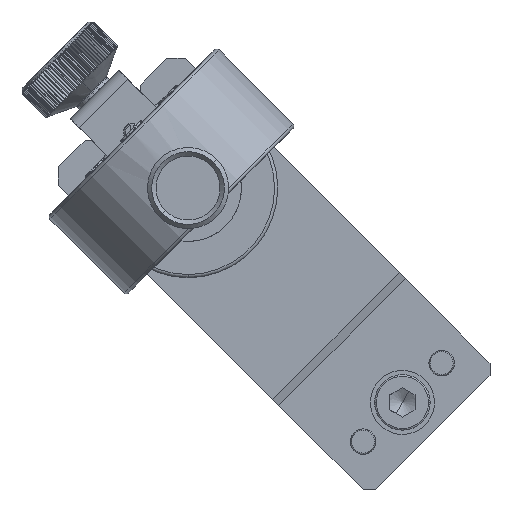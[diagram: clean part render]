
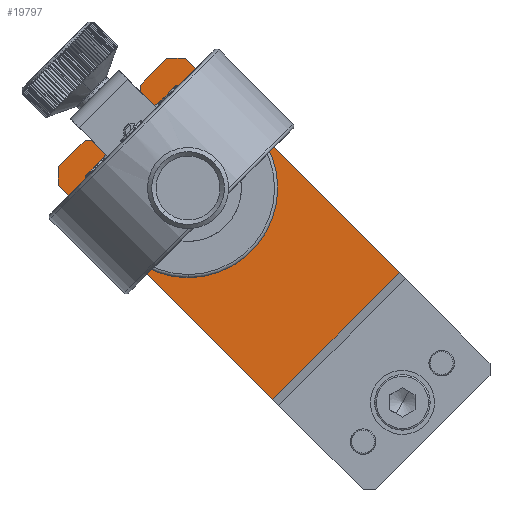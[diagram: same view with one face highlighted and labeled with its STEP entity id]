
A CAD part, front view. The second image highlights one B-rep face of the part: STEP entity #19797.
In plain terms, the highlighted planar face has unit normal (0, -1, 0).
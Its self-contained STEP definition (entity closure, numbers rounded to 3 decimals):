
#19007=CARTESIAN_POINT('Vertex',(611.502,406.106,339.628)) ;
#19010=CARTESIAN_POINT('Line Origine',(586.399,406.106,364.731)) ;
#19014=CARTESIAN_POINT('Vertex',(561.297,406.106,389.833)) ;
#19183=CARTESIAN_POINT('Line Origine',(561.297,406.106,391.954)) ;
#19187=CARTESIAN_POINT('Vertex',(561.297,406.106,394.076)) ;
#19211=CARTESIAN_POINT('Vertex',(569.005,406.106,400.369)) ;
#19214=CARTESIAN_POINT('Line Origine',(571.479,406.106,397.894)) ;
#19218=CARTESIAN_POINT('Vertex',(573.954,406.106,395.419)) ;
#19378=CARTESIAN_POINT('Vertex',(600.917,406.106,394.16)) ;
#19381=CARTESIAN_POINT('Axis2P3D Location',(591.703,406.106,389.126)) ;
#19385=CARTESIAN_POINT('Vertex',(582.488,406.106,384.092)) ;
#19436=CARTESIAN_POINT('Axis2P3D Location',(591.703,406.106,389.126)) ;
#19465=CARTESIAN_POINT('Line Origine',(583.606,406.106,416.385)) ;
#19469=CARTESIAN_POINT('Vertex',(567.59,406.106,400.369)) ;
#19489=CARTESIAN_POINT('Line Origine',(568.297,406.106,400.369)) ;
#19506=CARTESIAN_POINT('Line Origine',(579.682,406.106,401.147)) ;
#19510=CARTESIAN_POINT('Vertex',(585.409,406.106,406.874)) ;
#19538=CARTESIAN_POINT('Vertex',(580.46,406.106,411.824)) ;
#19541=CARTESIAN_POINT('Line Origine',(582.935,406.106,409.349)) ;
#19558=CARTESIAN_POINT('Line Origine',(580.46,406.106,412.531)) ;
#19562=CARTESIAN_POINT('Vertex',(580.46,406.106,413.238)) ;
#19577=CARTESIAN_POINT('Line Origine',(583.606,406.106,416.385)) ;
#19581=CARTESIAN_POINT('Vertex',(586.753,406.106,419.531)) ;
#19601=CARTESIAN_POINT('Line Origine',(588.874,406.106,419.531)) ;
#19605=CARTESIAN_POINT('Vertex',(590.996,406.106,419.531)) ;
#19754=CARTESIAN_POINT('Vertex',(641.2,406.106,369.327)) ;
#19757=CARTESIAN_POINT('Line Origine',(626.351,406.106,354.478)) ;
#19769=CARTESIAN_POINT('Axis2P3D Location',(588.874,406.106,391.954)) ;
#19774=CARTESIAN_POINT('Line Origine',(616.098,406.106,394.429)) ;
#19011=DIRECTION('Vector Direction',(0.707,0.,-0.707)) ;
#19184=DIRECTION('Vector Direction',(0.,0.,1.)) ;
#19215=DIRECTION('Vector Direction',(0.707,0.,-0.707)) ;
#19382=DIRECTION('Axis2P3D Direction',(0.,-1.,0.)) ;
#19437=DIRECTION('Axis2P3D Direction',(0.,-1.,0.)) ;
#19466=DIRECTION('Vector Direction',(0.707,0.,0.707)) ;
#19490=DIRECTION('Vector Direction',(1.,0.,0.)) ;
#19507=DIRECTION('Vector Direction',(-0.707,0.,-0.707)) ;
#19542=DIRECTION('Vector Direction',(0.707,0.,-0.707)) ;
#19559=DIRECTION('Vector Direction',(0.,0.,-1.)) ;
#19578=DIRECTION('Vector Direction',(0.707,0.,0.707)) ;
#19602=DIRECTION('Vector Direction',(1.,0.,0.)) ;
#19758=DIRECTION('Vector Direction',(-0.707,0.,-0.707)) ;
#19770=DIRECTION('Axis2P3D Direction',(0.,-1.,0.)) ;
#19771=DIRECTION('Axis2P3D XDirection',(-0.707,0.,0.707)) ;
#19775=DIRECTION('Vector Direction',(0.707,0.,-0.707)) ;
#19383=AXIS2_PLACEMENT_3D('Circle Axis2P3D',#19381,#19382,$) ;
#19438=AXIS2_PLACEMENT_3D('Circle Axis2P3D',#19436,#19437,$) ;
#19772=AXIS2_PLACEMENT_3D('Plane Axis2P3D',#19769,#19770,#19771) ;
#19780=ORIENTED_EDGE('',*,*,#19471,.T.) ;
#19781=ORIENTED_EDGE('',*,*,#19189,.F.) ;
#19782=ORIENTED_EDGE('',*,*,#19016,.T.) ;
#19783=ORIENTED_EDGE('',*,*,#19761,.T.) ;
#19784=ORIENTED_EDGE('',*,*,#19778,.F.) ;
#19785=ORIENTED_EDGE('',*,*,#19607,.F.) ;
#19786=ORIENTED_EDGE('',*,*,#19583,.T.) ;
#19787=ORIENTED_EDGE('',*,*,#19564,.F.) ;
#19788=ORIENTED_EDGE('',*,*,#19545,.T.) ;
#19789=ORIENTED_EDGE('',*,*,#19512,.T.) ;
#19790=ORIENTED_EDGE('',*,*,#19220,.F.) ;
#19791=ORIENTED_EDGE('',*,*,#19493,.F.) ;
#19794=ORIENTED_EDGE('',*,*,#19440,.F.) ;
#19795=ORIENTED_EDGE('',*,*,#19387,.F.) ;
#19796=FACE_BOUND('',#19793,.T.) ;
#19012=VECTOR('Line Direction',#19011,1.) ;
#19185=VECTOR('Line Direction',#19184,1.) ;
#19216=VECTOR('Line Direction',#19215,1.) ;
#19467=VECTOR('Line Direction',#19466,1.) ;
#19491=VECTOR('Line Direction',#19490,1.) ;
#19508=VECTOR('Line Direction',#19507,1.) ;
#19543=VECTOR('Line Direction',#19542,1.) ;
#19560=VECTOR('Line Direction',#19559,1.) ;
#19579=VECTOR('Line Direction',#19578,1.) ;
#19603=VECTOR('Line Direction',#19602,1.) ;
#19759=VECTOR('Line Direction',#19758,1.) ;
#19776=VECTOR('Line Direction',#19775,1.) ;
#19797=ADVANCED_FACE('Produkt1.6\\Messuhrhalter_gekroepft.1\\Hauptk\X2\00F6\X0\rper',(#19792,#19796),#19773,.T.) ;
#19384=CIRCLE('generated circle',#19383,10.5) ;
#19439=CIRCLE('generated circle',#19438,10.5) ;
#19016=EDGE_CURVE('',#19015,#19008,#19013,.T.) ;
#19189=EDGE_CURVE('',#19015,#19188,#19186,.T.) ;
#19220=EDGE_CURVE('',#19212,#19219,#19217,.T.) ;
#19387=EDGE_CURVE('',#19379,#19386,#19384,.T.) ;
#19440=EDGE_CURVE('',#19386,#19379,#19439,.T.) ;
#19471=EDGE_CURVE('',#19470,#19188,#19468,.F.) ;
#19493=EDGE_CURVE('',#19470,#19212,#19492,.T.) ;
#19512=EDGE_CURVE('',#19511,#19219,#19509,.T.) ;
#19545=EDGE_CURVE('',#19539,#19511,#19544,.T.) ;
#19564=EDGE_CURVE('',#19539,#19563,#19561,.F.) ;
#19583=EDGE_CURVE('',#19582,#19563,#19580,.F.) ;
#19607=EDGE_CURVE('',#19582,#19606,#19604,.T.) ;
#19761=EDGE_CURVE('',#19008,#19755,#19760,.F.) ;
#19778=EDGE_CURVE('',#19606,#19755,#19777,.T.) ;
#19779=EDGE_LOOP('',(#19780,#19781,#19782,#19783,#19784,#19785,#19786,#19787,#19788,#19789,#19790,#19791)) ;
#19793=EDGE_LOOP('',(#19794,#19795)) ;
#19792=FACE_OUTER_BOUND('',#19779,.T.) ;
#19013=LINE('Line',#19010,#19012) ;
#19186=LINE('Line',#19183,#19185) ;
#19217=LINE('Line',#19214,#19216) ;
#19468=LINE('Line',#19465,#19467) ;
#19492=LINE('Line',#19489,#19491) ;
#19509=LINE('Line',#19506,#19508) ;
#19544=LINE('Line',#19541,#19543) ;
#19561=LINE('Line',#19558,#19560) ;
#19580=LINE('Line',#19577,#19579) ;
#19604=LINE('Line',#19601,#19603) ;
#19760=LINE('Line',#19757,#19759) ;
#19777=LINE('Line',#19774,#19776) ;
#19773=PLANE('Plane',#19772) ;
#19008=VERTEX_POINT('',#19007) ;
#19015=VERTEX_POINT('',#19014) ;
#19188=VERTEX_POINT('',#19187) ;
#19212=VERTEX_POINT('',#19211) ;
#19219=VERTEX_POINT('',#19218) ;
#19379=VERTEX_POINT('',#19378) ;
#19386=VERTEX_POINT('',#19385) ;
#19470=VERTEX_POINT('',#19469) ;
#19511=VERTEX_POINT('',#19510) ;
#19539=VERTEX_POINT('',#19538) ;
#19563=VERTEX_POINT('',#19562) ;
#19582=VERTEX_POINT('',#19581) ;
#19606=VERTEX_POINT('',#19605) ;
#19755=VERTEX_POINT('',#19754) ;
